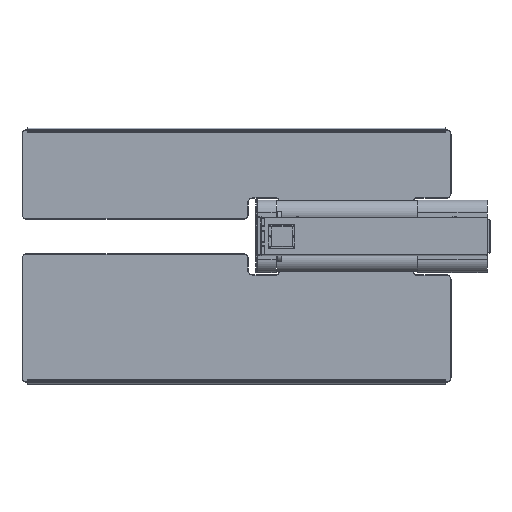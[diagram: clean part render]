
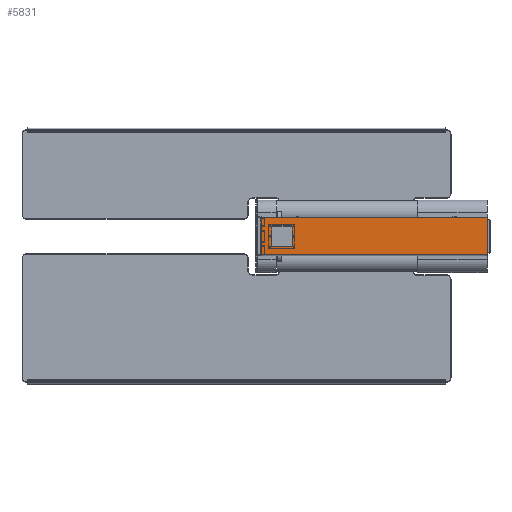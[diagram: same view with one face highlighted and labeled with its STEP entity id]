
A CAD part, left-side view. The second image highlights one B-rep face of the part: STEP entity #5831.
In plain terms, the highlighted planar face has unit normal (-1, 0, 0).
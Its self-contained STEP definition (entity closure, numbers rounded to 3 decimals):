
#71 = VERTEX_POINT ( 'NONE', #36470 ) ;
#196 = DIRECTION ( 'NONE',  ( 0., 0., -1. ) ) ;
#1263 = LINE ( 'NONE', #37799, #28734 ) ;
#1761 = DIRECTION ( 'NONE',  ( -1., 0., 0. ) ) ;
#2054 = CARTESIAN_POINT ( 'NONE',  ( 0., 750., 36. ) ) ;
#2482 = VERTEX_POINT ( 'NONE', #31633 ) ;
#2526 = CARTESIAN_POINT ( 'NONE',  ( 0., 830., -36. ) ) ;
#2800 = CARTESIAN_POINT ( 'NONE',  ( 0., 826., -40. ) ) ;
#3491 = EDGE_CURVE ( 'NONE', #11079, #49388, #31064, .T. ) ;
#4111 = VERTEX_POINT ( 'NONE', #2526 ) ;
#4757 = PLANE ( 'NONE',  #50180 ) ;
#4777 = VECTOR ( 'NONE', #13513, 1000. ) ;
#4905 = VECTOR ( 'NONE', #44734, 1000. ) ;
#5831 = ADVANCED_FACE ( 'NONE', ( #14645, #46039 ), #4757, .F. ) ;
#5887 = EDGE_CURVE ( 'NONE', #57301, #47165, #49263, .T. ) ;
#6370 = CARTESIAN_POINT ( 'NONE',  ( 0., 750., -36. ) ) ;
#6846 = DIRECTION ( 'NONE',  ( -1., 0., 0. ) ) ;
#7447 = EDGE_CURVE ( 'NONE', #4111, #11079, #8972, .T. ) ;
#7510 = DIRECTION ( 'NONE',  ( 0., 1., 0. ) ) ;
#7542 = DIRECTION ( 'NONE',  ( 0., 0., -1. ) ) ;
#7618 = DIRECTION ( 'NONE',  ( 0., 0., -1. ) ) ;
#7726 = CIRCLE ( 'NONE', #30885, 4. ) ;
#7827 = LINE ( 'NONE', #26248, #44962 ) ;
#7932 = VECTOR ( 'NONE', #7510, 1000. ) ;
#8252 = EDGE_LOOP ( 'NONE', ( #20260, #27164, #16182, #23237, #19553, #30690, #46867, #36948 ) ) ;
#8694 = CARTESIAN_POINT ( 'NONE',  ( 0., 826., -40. ) ) ;
#8972 = CIRCLE ( 'NONE', #42673, 4. ) ;
#9305 = CARTESIAN_POINT ( 'NONE',  ( 0., 3., 71. ) ) ;
#9766 = LINE ( 'NONE', #47732, #46020 ) ;
#10083 = CIRCLE ( 'NONE', #44789, 4. ) ;
#10476 = VECTOR ( 'NONE', #31907, 1000. ) ;
#11079 = VERTEX_POINT ( 'NONE', #2800 ) ;
#11129 = LINE ( 'NONE', #16533, #7932 ) ;
#11392 = CARTESIAN_POINT ( 'NONE',  ( 0., 3., -70.999 ) ) ;
#11510 = VERTEX_POINT ( 'NONE', #2054 ) ;
#13513 = DIRECTION ( 'NONE',  ( 0., -1., 0. ) ) ;
#14645 = FACE_BOUND ( 'NONE', #46621, .T. ) ;
#14681 = EDGE_CURVE ( 'NONE', #45513, #25605, #21164, .T. ) ;
#14858 = VERTEX_POINT ( 'NONE', #43962 ) ;
#14877 = VERTEX_POINT ( 'NONE', #11392 ) ;
#16005 = VERTEX_POINT ( 'NONE', #6370 ) ;
#16044 = CARTESIAN_POINT ( 'NONE',  ( 0., 3., 73.585 ) ) ;
#16182 = ORIENTED_EDGE ( 'NONE', *, *, #14681, .F. ) ;
#16533 = CARTESIAN_POINT ( 'NONE',  ( 0., 826., 40. ) ) ;
#18085 = LINE ( 'NONE', #46725, #24849 ) ;
#19249 = ORIENTED_EDGE ( 'NONE', *, *, #53807, .F. ) ;
#19553 = ORIENTED_EDGE ( 'NONE', *, *, #5887, .T. ) ;
#19648 = DIRECTION ( 'NONE',  ( 0., 0., 1. ) ) ;
#20260 = ORIENTED_EDGE ( 'NONE', *, *, #47937, .F. ) ;
#20559 = CARTESIAN_POINT ( 'NONE',  ( 0., 3., -71. ) ) ;
#20979 = CARTESIAN_POINT ( 'NONE',  ( 0., 754., 36. ) ) ;
#21164 = LINE ( 'NONE', #16044, #38713 ) ;
#21343 = ORIENTED_EDGE ( 'NONE', *, *, #7447, .F. ) ;
#21669 = DIRECTION ( 'NONE',  ( 0., 0., -1. ) ) ;
#22023 = EDGE_CURVE ( 'NONE', #44606, #71, #30812, .T. ) ;
#22064 = ORIENTED_EDGE ( 'NONE', *, *, #43240, .F. ) ;
#22650 = DIRECTION ( 'NONE',  ( 0., 0., -1. ) ) ;
#22662 = ORIENTED_EDGE ( 'NONE', *, *, #3491, .F. ) ;
#23148 = CARTESIAN_POINT ( 'NONE',  ( 0., 870., -74. ) ) ;
#23237 = ORIENTED_EDGE ( 'NONE', *, *, #42434, .T. ) ;
#24410 = DIRECTION ( 'NONE',  ( 0., 0., -1. ) ) ;
#24849 = VECTOR ( 'NONE', #22650, 1000. ) ;
#24862 = ORIENTED_EDGE ( 'NONE', *, *, #26638, .F. ) ;
#25420 = CARTESIAN_POINT ( 'NONE',  ( 0., 826., 40. ) ) ;
#25605 = VERTEX_POINT ( 'NONE', #54579 ) ;
#25880 = CARTESIAN_POINT ( 'NONE',  ( 0., 750., -36. ) ) ;
#25958 = VECTOR ( 'NONE', #51266, 1000. ) ;
#25962 = CARTESIAN_POINT ( 'NONE',  ( 0., 1.5, -71. ) ) ;
#26248 = CARTESIAN_POINT ( 'NONE',  ( 0., 830., -36. ) ) ;
#26638 = EDGE_CURVE ( 'NONE', #49388, #16005, #39424, .T. ) ;
#27150 = EDGE_CURVE ( 'NONE', #36313, #14858, #7726, .T. ) ;
#27164 = ORIENTED_EDGE ( 'NONE', *, *, #37071, .F. ) ;
#28734 = VECTOR ( 'NONE', #19648, 1000. ) ;
#30690 = ORIENTED_EDGE ( 'NONE', *, *, #43751, .F. ) ;
#30812 = LINE ( 'NONE', #25962, #53432 ) ;
#30872 = EDGE_CURVE ( 'NONE', #11510, #2482, #10083, .T. ) ;
#30885 = AXIS2_PLACEMENT_3D ( 'NONE', #46616, #32781, #196 ) ;
#31064 = LINE ( 'NONE', #8694, #4777 ) ;
#31633 = CARTESIAN_POINT ( 'NONE',  ( 0., 754., 40. ) ) ;
#31907 = DIRECTION ( 'NONE',  ( 0., 0., 1. ) ) ;
#32781 = DIRECTION ( 'NONE',  ( -1., 0., 0. ) ) ;
#33123 = CARTESIAN_POINT ( 'NONE',  ( 0., 754., -40. ) ) ;
#33812 = CARTESIAN_POINT ( 'NONE',  ( 0., 870., 71. ) ) ;
#36124 = CARTESIAN_POINT ( 'NONE',  ( 0., 3., 70.999 ) ) ;
#36313 = VERTEX_POINT ( 'NONE', #25420 ) ;
#36320 = ORIENTED_EDGE ( 'NONE', *, *, #57273, .F. ) ;
#36470 = CARTESIAN_POINT ( 'NONE',  ( 0., 870., -71. ) ) ;
#36948 = ORIENTED_EDGE ( 'NONE', *, *, #22023, .F. ) ;
#36989 = VERTEX_POINT ( 'NONE', #59467 ) ;
#37071 = EDGE_CURVE ( 'NONE', #25605, #14877, #37143, .T. ) ;
#37143 = LINE ( 'NONE', #46453, #39846 ) ;
#37799 = CARTESIAN_POINT ( 'NONE',  ( 0., 870., -74. ) ) ;
#38713 = VECTOR ( 'NONE', #7618, 1000. ) ;
#39424 = CIRCLE ( 'NONE', #53864, 4. ) ;
#39835 = DIRECTION ( 'NONE',  ( -1., 0., 0. ) ) ;
#39846 = VECTOR ( 'NONE', #43421, 1000. ) ;
#40724 = DIRECTION ( 'NONE',  ( 0., 1., 0. ) ) ;
#41052 = ORIENTED_EDGE ( 'NONE', *, *, #30872, .F. ) ;
#41548 = DIRECTION ( 'NONE',  ( 1., 0., 0. ) ) ;
#42124 = DIRECTION ( 'NONE',  ( 0., 0., -1. ) ) ;
#42434 = EDGE_CURVE ( 'NONE', #45513, #57301, #9766, .T. ) ;
#42532 = EDGE_CURVE ( 'NONE', #71, #36989, #1263, .T. ) ;
#42673 = AXIS2_PLACEMENT_3D ( 'NONE', #47331, #1761, #24410 ) ;
#43240 = EDGE_CURVE ( 'NONE', #16005, #11510, #54497, .T. ) ;
#43421 = DIRECTION ( 'NONE',  ( 0., 1., 0. ) ) ;
#43751 = EDGE_CURVE ( 'NONE', #36989, #47165, #51869, .T. ) ;
#43962 = CARTESIAN_POINT ( 'NONE',  ( 0., 830., 36. ) ) ;
#44606 = VERTEX_POINT ( 'NONE', #20559 ) ;
#44632 = CARTESIAN_POINT ( 'NONE',  ( 0., 754., -36. ) ) ;
#44734 = DIRECTION ( 'NONE',  ( 0., 0., 1. ) ) ;
#44789 = AXIS2_PLACEMENT_3D ( 'NONE', #20979, #6846, #57244 ) ;
#44962 = VECTOR ( 'NONE', #21669, 1000. ) ;
#45513 = VERTEX_POINT ( 'NONE', #36124 ) ;
#46020 = VECTOR ( 'NONE', #55902, 1000. ) ;
#46039 = FACE_OUTER_BOUND ( 'NONE', #8252, .T. ) ;
#46453 = CARTESIAN_POINT ( 'NONE',  ( 0., 870., -70.999 ) ) ;
#46616 = CARTESIAN_POINT ( 'NONE',  ( 0., 826., 36. ) ) ;
#46621 = EDGE_LOOP ( 'NONE', ( #22662, #21343, #19249, #55894, #36320, #41052, #22064, #24862 ) ) ;
#46725 = CARTESIAN_POINT ( 'NONE',  ( 0., 3.001, -74. ) ) ;
#46867 = ORIENTED_EDGE ( 'NONE', *, *, #42532, .F. ) ;
#47165 = VERTEX_POINT ( 'NONE', #9305 ) ;
#47331 = CARTESIAN_POINT ( 'NONE',  ( 0., 826., -36. ) ) ;
#47732 = CARTESIAN_POINT ( 'NONE',  ( 0., 870., 71. ) ) ;
#47937 = EDGE_CURVE ( 'NONE', #14877, #44606, #18085, .T. ) ;
#49263 = LINE ( 'NONE', #57748, #4905 ) ;
#49388 = VERTEX_POINT ( 'NONE', #33123 ) ;
#50180 = AXIS2_PLACEMENT_3D ( 'NONE', #23148, #41548, #42124 ) ;
#51266 = DIRECTION ( 'NONE',  ( 0., -1., 0. ) ) ;
#51869 = LINE ( 'NONE', #33812, #25958 ) ;
#53432 = VECTOR ( 'NONE', #40724, 1000. ) ;
#53807 = EDGE_CURVE ( 'NONE', #14858, #4111, #7827, .T. ) ;
#53864 = AXIS2_PLACEMENT_3D ( 'NONE', #44632, #39835, #7542 ) ;
#54497 = LINE ( 'NONE', #25880, #10476 ) ;
#54579 = CARTESIAN_POINT ( 'NONE',  ( 0., 3., -70.999 ) ) ;
#55894 = ORIENTED_EDGE ( 'NONE', *, *, #27150, .F. ) ;
#55902 = DIRECTION ( 'NONE',  ( 0., 1., 0. ) ) ;
#57244 = DIRECTION ( 'NONE',  ( 0., 0., -1. ) ) ;
#57273 = EDGE_CURVE ( 'NONE', #2482, #36313, #11129, .T. ) ;
#57301 = VERTEX_POINT ( 'NONE', #57910 ) ;
#57748 = CARTESIAN_POINT ( 'NONE',  ( 0., 3., -74. ) ) ;
#57910 = CARTESIAN_POINT ( 'NONE',  ( 0., 3., 70.999 ) ) ;
#59467 = CARTESIAN_POINT ( 'NONE',  ( 0., 870., 71. ) ) ;
